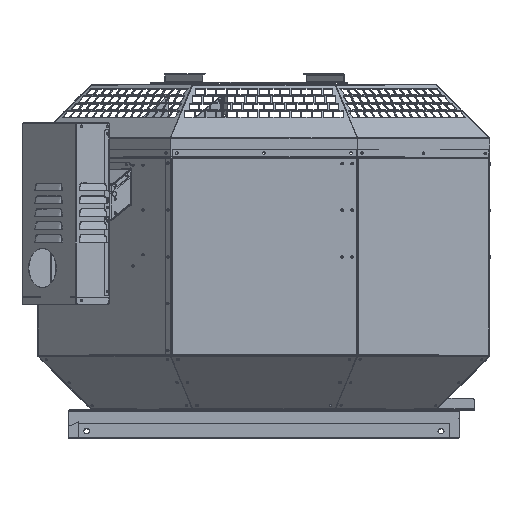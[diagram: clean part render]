
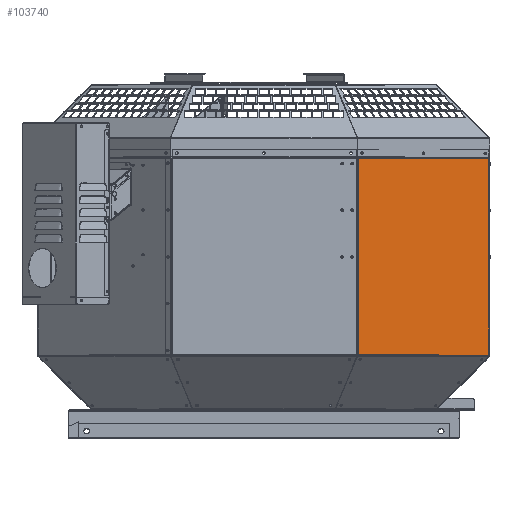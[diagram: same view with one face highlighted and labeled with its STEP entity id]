
A CAD part, top view. The second image highlights one B-rep face of the part: STEP entity #103740.
In plain terms, the highlighted planar face has unit normal (0.707, 0, 0.707).
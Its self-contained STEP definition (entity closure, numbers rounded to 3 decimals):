
#3566 = EDGE_CURVE ( 'NONE', #72948, #25394, #65029, .T. ) ;
#4559 = EDGE_CURVE ( 'NONE', #27643, #71943, #112436, .T. ) ;
#5657 = ORIENTED_EDGE ( 'NONE', *, *, #52144, .T. ) ;
#8340 = CARTESIAN_POINT ( 'NONE',  ( 359.745, 422.408, 150.786 ) ) ;
#12520 = DIRECTION ( 'NONE',  ( 0.707, 0., 0.707 ) ) ;
#12668 = CARTESIAN_POINT ( 'NONE',  ( 359.745, 436.408, 150.786 ) ) ;
#13990 = EDGE_CURVE ( 'NONE', #125270, #72948, #161486, .T. ) ;
#19143 = DIRECTION ( 'NONE',  ( -0.707, 0., 0.707 ) ) ;
#24869 = DIRECTION ( 'NONE',  ( 0., 1., 0. ) ) ;
#25066 = VECTOR ( 'NONE', #76101, 1000. ) ;
#25394 = VERTEX_POINT ( 'NONE', #59328 ) ;
#26965 = CARTESIAN_POINT ( 'NONE',  ( 360.707, 422.416, 149.824 ) ) ;
#27518 = AXIS2_PLACEMENT_3D ( 'NONE', #50251, #12520, #101329 ) ;
#27643 = VERTEX_POINT ( 'NONE', #118477 ) ;
#28857 = EDGE_CURVE ( 'NONE', #33333, #65277, #93706, .T. ) ;
#31296 = VECTOR ( 'NONE', #142961, 1000. ) ;
#33333 = VERTEX_POINT ( 'NONE', #135357 ) ;
#34005 = CARTESIAN_POINT ( 'NONE',  ( 360.063, 422.408, 150.468 ) ) ;
#35377 = DIRECTION ( 'NONE',  ( 0.707, 0., -0.707 ) ) ;
#41986 = CARTESIAN_POINT ( 'NONE',  ( 360.063, 436.408, 150.468 ) ) ;
#43799 = CARTESIAN_POINT ( 'NONE',  ( 360.063, 108.408, 150.468 ) ) ;
#43858 = ORIENTED_EDGE ( 'NONE', *, *, #4559, .F. ) ;
#44593 = ORIENTED_EDGE ( 'NONE', *, *, #107542, .T. ) ;
#44896 = DIRECTION ( 'NONE',  ( 0., -1., 0. ) ) ;
#50251 = CARTESIAN_POINT ( 'NONE',  ( 360.707, 436.408, 149.824 ) ) ;
#51609 = CARTESIAN_POINT ( 'NONE',  ( 359.745, 422.416, 150.786 ) ) ;
#52144 = EDGE_CURVE ( 'NONE', #65277, #25394, #87877, .T. ) ;
#52458 = ORIENTED_EDGE ( 'NONE', *, *, #13990, .F. ) ;
#59328 = CARTESIAN_POINT ( 'NONE',  ( 150.468, 108.408, 360.063 ) ) ;
#61744 = VERTEX_POINT ( 'NONE', #8340 ) ;
#65029 = LINE ( 'NONE', #84038, #31296 ) ;
#65277 = VERTEX_POINT ( 'NONE', #94156 ) ;
#69469 = DIRECTION ( 'NONE',  ( -0.707, 0., 0.707 ) ) ;
#71943 = VERTEX_POINT ( 'NONE', #51609 ) ;
#72948 = VERTEX_POINT ( 'NONE', #43799 ) ;
#74845 = VECTOR ( 'NONE', #19143, 1000. ) ;
#76101 = DIRECTION ( 'NONE',  ( 0., -1., 0. ) ) ;
#78800 = LINE ( 'NONE', #145612, #74845 ) ;
#84038 = CARTESIAN_POINT ( 'NONE',  ( 360.707, 108.408, 149.824 ) ) ;
#87877 = LINE ( 'NONE', #158737, #117609 ) ;
#88534 = PLANE ( 'NONE',  #27518 ) ;
#90793 = FACE_OUTER_BOUND ( 'NONE', #160470, .T. ) ;
#93706 = LINE ( 'NONE', #107257, #123499 ) ;
#94156 = CARTESIAN_POINT ( 'NONE',  ( 150.468, 422.408, 360.063 ) ) ;
#95785 = VECTOR ( 'NONE', #24869, 1000. ) ;
#101329 = DIRECTION ( 'NONE',  ( 0.707, 0., -0.707 ) ) ;
#103740 = ADVANCED_FACE ( 'NONE', ( #90793 ), #88534, .T. ) ;
#103758 = LINE ( 'NONE', #12668, #95785 ) ;
#107257 = CARTESIAN_POINT ( 'NONE',  ( 150.786, 422.408, 359.745 ) ) ;
#107542 = EDGE_CURVE ( 'NONE', #27643, #33333, #152124, .T. ) ;
#108396 = VECTOR ( 'NONE', #35377, 1000. ) ;
#112436 = LINE ( 'NONE', #26965, #108396 ) ;
#112485 = ORIENTED_EDGE ( 'NONE', *, *, #135794, .T. ) ;
#117609 = VECTOR ( 'NONE', #44896, 1000. ) ;
#118477 = CARTESIAN_POINT ( 'NONE',  ( 150.786, 422.416, 359.745 ) ) ;
#121611 = EDGE_CURVE ( 'NONE', #125270, #61744, #78800, .T. ) ;
#123499 = VECTOR ( 'NONE', #69469, 1000. ) ;
#125270 = VERTEX_POINT ( 'NONE', #34005 ) ;
#127618 = VECTOR ( 'NONE', #156324, 1000. ) ;
#135357 = CARTESIAN_POINT ( 'NONE',  ( 150.786, 422.408, 359.745 ) ) ;
#135794 = EDGE_CURVE ( 'NONE', #61744, #71943, #103758, .T. ) ;
#142961 = DIRECTION ( 'NONE',  ( -0.707, 0., 0.707 ) ) ;
#145184 = ORIENTED_EDGE ( 'NONE', *, *, #28857, .T. ) ;
#145612 = CARTESIAN_POINT ( 'NONE',  ( 359.745, 422.408, 150.786 ) ) ;
#145915 = ORIENTED_EDGE ( 'NONE', *, *, #3566, .F. ) ;
#152124 = LINE ( 'NONE', #152201, #25066 ) ;
#152201 = CARTESIAN_POINT ( 'NONE',  ( 150.786, 436.408, 359.745 ) ) ;
#156324 = DIRECTION ( 'NONE',  ( 0., -1., 0. ) ) ;
#158737 = CARTESIAN_POINT ( 'NONE',  ( 150.468, 436.408, 360.063 ) ) ;
#160470 = EDGE_LOOP ( 'NONE', ( #43858, #44593, #145184, #5657, #145915, #52458, #161491, #112485 ) ) ;
#161486 = LINE ( 'NONE', #41986, #127618 ) ;
#161491 = ORIENTED_EDGE ( 'NONE', *, *, #121611, .T. ) ;
